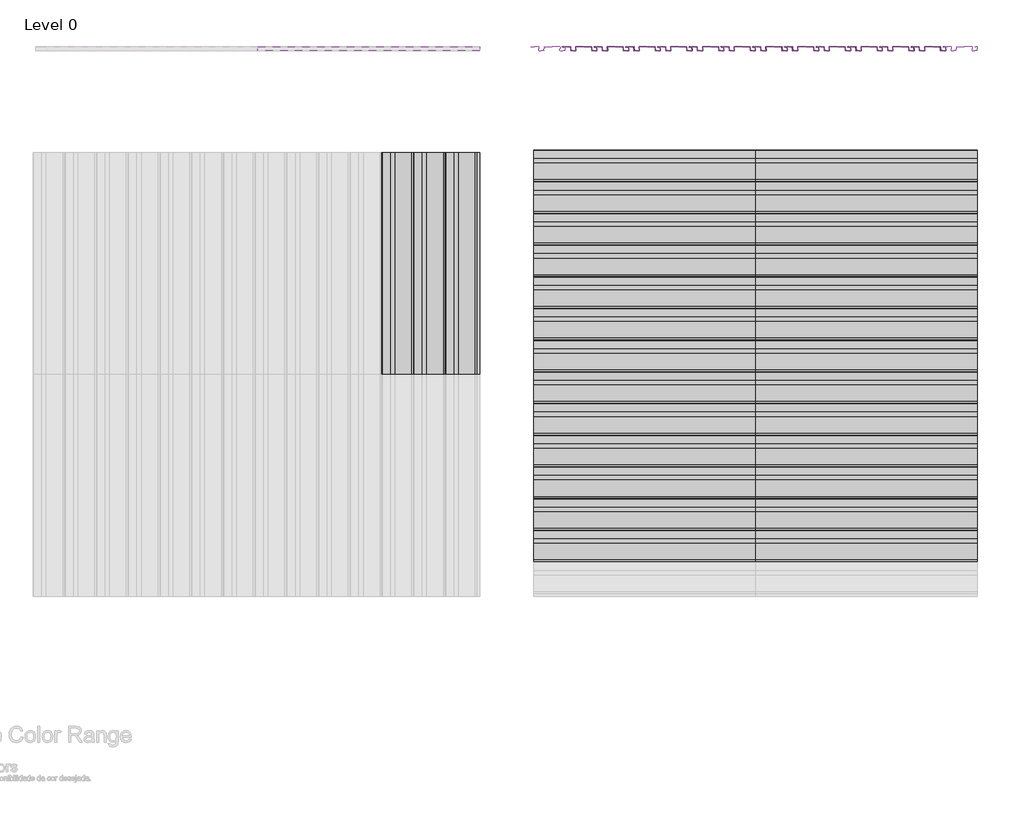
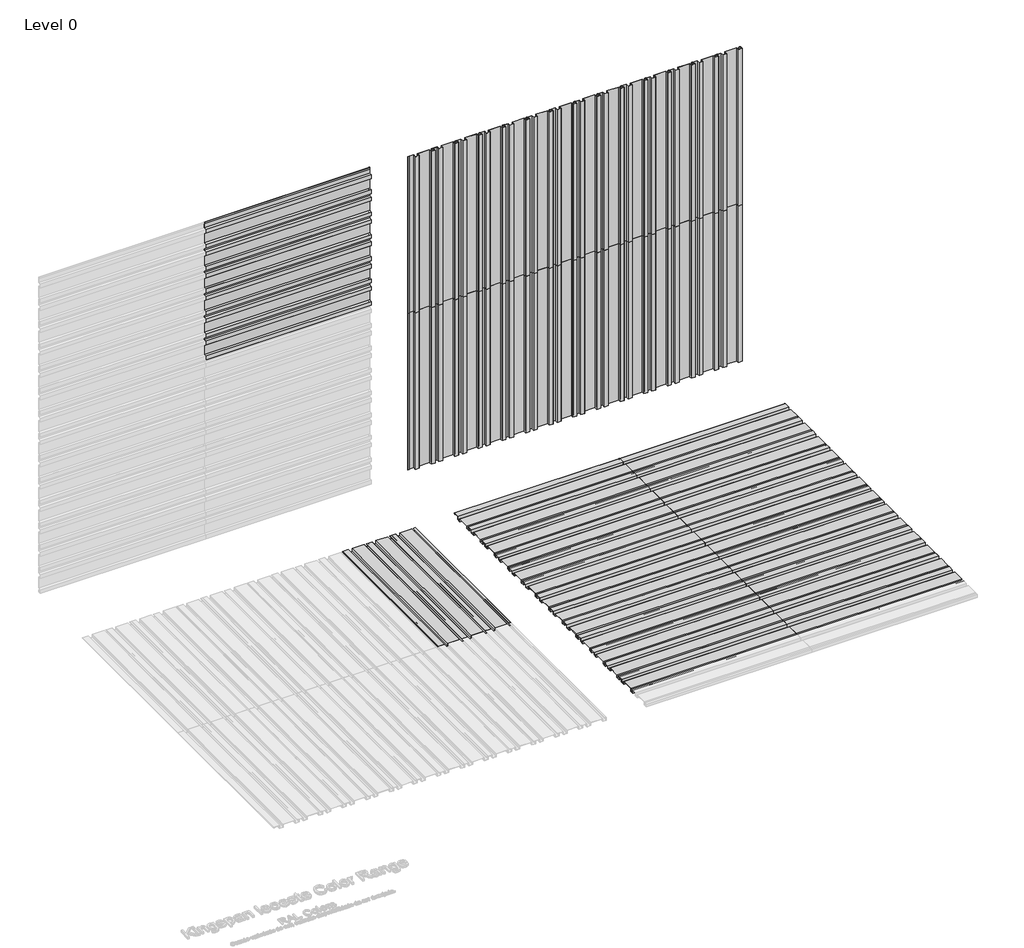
# One storey, part 2 of 2: 63 proxies.
"""IFC4 building model written with IfcOpenShell, lengths in millimetres."""

from ifc_helpers import new_model, si_unit, origin, place, context, project, spatial, transform, mapped, element, save
from components import mx4_0_standard_panel_ns_50b23f36, mx4_0_standard_panel_ns_1fe548eb

model = new_model("IFC4")

# Units and contexts
model_context = context("Model", 3, world=origin())
ifc_project = project(units=[si_unit("LENGTHUNIT", "METRE", prefix="MILLI")], contexts=[model_context])

# Site, building, storey
site = spatial("IfcSite", under=ifc_project)
building = spatial("IfcBuilding", under=site)
storey = spatial("IfcBuildingStorey", under=building, Name="Level 0", Elevation=0.0)

# Proxies
placement = place(None, origin())
mx4_0_standard_panel_ns_shape = mx4_0_standard_panel_ns_50b23f36(model_context)
element("IfcBuildingElementProxy", 1, Name="MX4.0 : Standard Panel_NS", ObjectType="MX4.0 : Standard Panel_NS", at=placement, inside=storey, context=model_context, shape_type="MappedRepresentation", body=[
    mapped(mx4_0_standard_panel_ns_shape, transform((2189.7088665, 5063.0274074, 0.0), x_axis=(0.0, 0.0, 1.0), y_axis=(-1.0, 0.0, 0.0), z_axis=(0.0, -1.0, 0.0))),
])
element("IfcBuildingElementProxy", 2, Name="MX4.0 : Standard Panel_NS", ObjectType="MX4.0 : Standard Panel_NS", at=placement, inside=storey, context=model_context, shape_type="MappedRepresentation", body=[
    mapped(mx4_0_standard_panel_ns_shape, transform((2189.7088665, 5063.0274074, 2100.0), x_axis=(0.0, 0.0, 1.0), y_axis=(-1.0, 0.0, 0.0), z_axis=(0.0, -1.0, 0.0))),
])
element("IfcBuildingElementProxy", 3, Name="MX4.0 : Standard Panel_NS", ObjectType="MX4.0 : Standard Panel_NS", at=placement, inside=storey, context=model_context, shape_type="MappedRepresentation", body=[
    mapped(mx4_0_standard_panel_ns_shape, transform((-1317.7637295, 5063.0274074, 3300.0), x_axis=(1.0, 0.0, 0.0), y_axis=(0.0, 0.0, 1.0), z_axis=(0.0, -1.0, 0.0))),
])
element("IfcBuildingElementProxy", 4, Name="MX4.0 : Standard Panel_NS", ObjectType="MX4.0 : Standard Panel_NS", at=placement, inside=storey, context=model_context, shape_type="MappedRepresentation", body=[
    mapped(mx4_0_standard_panel_ns_shape, transform((4589.7088665, 5063.0274074, 0.0), x_axis=(0.0, 0.0, 1.0), y_axis=(-1.0, 0.0, 0.0), z_axis=(0.0, -1.0, 0.0))),
])
element("IfcBuildingElementProxy", 5, Name="MX4.0 : Standard Panel_NS", ObjectType="MX4.0 : Standard Panel_NS", at=placement, inside=storey, context=model_context, shape_type="MappedRepresentation", body=[
    mapped(mx4_0_standard_panel_ns_shape, transform((4589.7088665, 5063.0274074, 2100.0), x_axis=(0.0, 0.0, 1.0), y_axis=(-1.0, 0.0, 0.0), z_axis=(0.0, -1.0, 0.0))),
])
mx4_0_standard_panel_ns_2_shape = mx4_0_standard_panel_ns_1fe548eb(model_context)
element("IfcBuildingElementProxy", 6, Name="MX4.0 : Standard Panel_NS", ObjectType="MX4.0 : Standard Panel_NS", at=placement, inside=storey, context=model_context, shape_type="MappedRepresentation", body=[
    mapped(mx4_0_standard_panel_ns_2_shape, transform((1289.7088668, 758.3113453, 0.0), x_axis=(1.0, 0.0, 0.0), y_axis=(0.0, 1.0, 0.0), z_axis=(0.0, 0.0, 1.0))),
])
element("IfcBuildingElementProxy", 7, Name="MX4.0 : Standard Panel_NS", ObjectType="MX4.0 : Standard Panel_NS", at=placement, inside=storey, context=model_context, shape_type="MappedRepresentation", body=[
    mapped(mx4_0_standard_panel_ns_2_shape, transform((1289.7088668, 3158.3113453, 0.0), x_axis=(1.0, 0.0, 0.0), y_axis=(0.0, 1.0, 0.0), z_axis=(0.0, 0.0, 1.0))),
])
element("IfcBuildingElementProxy", 8, Name="MX4.0 : Standard Panel_NS", ObjectType="MX4.0 : Standard Panel_NS", at=placement, inside=storey, context=model_context, shape_type="MappedRepresentation", body=[
    mapped(mx4_0_standard_panel_ns_2_shape, transform((3389.7088668, 758.3113453, 0.0), x_axis=(1.0, 0.0, 0.0), y_axis=(0.0, 1.0, 0.0), z_axis=(0.0, 0.0, 1.0))),
])
element("IfcBuildingElementProxy", 9, Name="MX4.0 : Standard Panel_NS", ObjectType="MX4.0 : Standard Panel_NS", at=placement, inside=storey, context=model_context, shape_type="MappedRepresentation", body=[
    mapped(mx4_0_standard_panel_ns_2_shape, transform((3389.7088668, 3158.3113453, 0.0), x_axis=(1.0, 0.0, 0.0), y_axis=(0.0, 1.0, 0.0), z_axis=(0.0, 0.0, 1.0))),
])
element("IfcBuildingElementProxy", 10, Name="MX4.0 : Standard Panel_NS", ObjectType="MX4.0 : Standard Panel_NS", at=placement, inside=storey, context=model_context, shape_type="MappedRepresentation", body=[
    mapped(mx4_0_standard_panel_ns_shape, transform((3089.7088665, 5063.0274074, 0.0), x_axis=(0.0, 0.0, 1.0), y_axis=(-1.0, 0.0, 0.0), z_axis=(0.0, -1.0, 0.0))),
])
element("IfcBuildingElementProxy", 11, Name="MX4.0 : Standard Panel_NS", ObjectType="MX4.0 : Standard Panel_NS", at=placement, inside=storey, context=model_context, shape_type="MappedRepresentation", body=[
    mapped(mx4_0_standard_panel_ns_shape, transform((3089.7088665, 5063.0274074, 2100.0), x_axis=(0.0, 0.0, 1.0), y_axis=(-1.0, 0.0, 0.0), z_axis=(0.0, -1.0, 0.0))),
])
element("IfcBuildingElementProxy", 12, Name="MX4.0 : Standard Panel_NS", ObjectType="MX4.0 : Standard Panel_NS", at=placement, inside=storey, context=model_context, shape_type="MappedRepresentation", body=[
    mapped(mx4_0_standard_panel_ns_shape, transform((-1317.7637295, 5063.0274074, 2400.0), x_axis=(1.0, 0.0, 0.0), y_axis=(0.0, 0.0, 1.0), z_axis=(0.0, -1.0, 0.0))),
])
element("IfcBuildingElementProxy", 13, Name="MX4.0 : Standard Panel_NS", ObjectType="MX4.0 : Standard Panel_NS", at=placement, inside=storey, context=model_context, shape_type="MappedRepresentation", body=[
    mapped(mx4_0_standard_panel_ns_shape, transform((5489.7088666, 5063.0274074, 0.0), x_axis=(0.0, 0.0, 1.0), y_axis=(-1.0, 0.0, 0.0), z_axis=(0.0, -1.0, 0.0))),
])
element("IfcBuildingElementProxy", 14, Name="MX4.0 : Standard Panel_NS", ObjectType="MX4.0 : Standard Panel_NS", at=placement, inside=storey, context=model_context, shape_type="MappedRepresentation", body=[
    mapped(mx4_0_standard_panel_ns_shape, transform((5489.7088666, 5063.0274074, 2100.0), x_axis=(0.0, 0.0, 1.0), y_axis=(-1.0, 0.0, 0.0), z_axis=(0.0, -1.0, 0.0))),
])
element("IfcBuildingElementProxy", 15, Name="MX4.0 : Standard Panel_NS", ObjectType="MX4.0 : Standard Panel_NS", at=placement, inside=storey, context=model_context, shape_type="MappedRepresentation", body=[
    mapped(mx4_0_standard_panel_ns_2_shape, transform((1289.7088668, 2258.3113453, 0.0), x_axis=(1.0, 0.0, 0.0), y_axis=(0.0, 1.0, 0.0), z_axis=(0.0, 0.0, 1.0))),
])
element("IfcBuildingElementProxy", 16, Name="MX4.0 : Standard Panel_NS", ObjectType="MX4.0 : Standard Panel_NS", at=placement, inside=storey, context=model_context, shape_type="MappedRepresentation", body=[
    mapped(mx4_0_standard_panel_ns_2_shape, transform((782.2362705, 1958.3113453, 0.0), x_axis=(0.0, 1.0, 0.0), y_axis=(-1.0, 0.0, 0.0), z_axis=(0.0, 0.0, 1.0))),
])
element("IfcBuildingElementProxy", 17, Name="MX4.0 : Standard Panel_NS", ObjectType="MX4.0 : Standard Panel_NS", at=placement, inside=storey, context=model_context, shape_type="MappedRepresentation", body=[
    mapped(mx4_0_standard_panel_ns_2_shape, transform((3389.7088668, 2258.3113453, 0.0), x_axis=(1.0, 0.0, 0.0), y_axis=(0.0, 1.0, 0.0), z_axis=(0.0, 0.0, 1.0))),
])
element("IfcBuildingElementProxy", 18, Name="MX4.0 : Standard Panel_NS", ObjectType="MX4.0 : Standard Panel_NS", at=placement, inside=storey, context=model_context, shape_type="MappedRepresentation", body=[
    mapped(mx4_0_standard_panel_ns_2_shape, transform((1289.7088668, 1358.3113453, 0.0), x_axis=(1.0, 0.0, 0.0), y_axis=(0.0, 1.0, 0.0), z_axis=(0.0, 0.0, 1.0))),
])
element("IfcBuildingElementProxy", 19, Name="MX4.0 : Standard Panel_NS", ObjectType="MX4.0 : Standard Panel_NS", at=placement, inside=storey, context=model_context, shape_type="MappedRepresentation", body=[
    mapped(mx4_0_standard_panel_ns_2_shape, transform((1289.7088668, 3758.3113453, 0.0), x_axis=(1.0, 0.0, 0.0), y_axis=(0.0, 1.0, 0.0), z_axis=(0.0, 0.0, 1.0))),
])
element("IfcBuildingElementProxy", 20, Name="MX4.0 : Standard Panel_NS", ObjectType="MX4.0 : Standard Panel_NS", at=placement, inside=storey, context=model_context, shape_type="MappedRepresentation", body=[
    mapped(mx4_0_standard_panel_ns_2_shape, transform((3389.7088668, 1358.3113453, 0.0), x_axis=(1.0, 0.0, 0.0), y_axis=(0.0, 1.0, 0.0), z_axis=(0.0, 0.0, 1.0))),
])
element("IfcBuildingElementProxy", 21, Name="MX4.0 : Standard Panel_NS", ObjectType="MX4.0 : Standard Panel_NS", at=placement, inside=storey, context=model_context, shape_type="MappedRepresentation", body=[
    mapped(mx4_0_standard_panel_ns_2_shape, transform((3389.7088668, 3758.3113453, 0.0), x_axis=(1.0, 0.0, 0.0), y_axis=(0.0, 1.0, 0.0), z_axis=(0.0, 0.0, 1.0))),
])
element("IfcBuildingElementProxy", 22, Name="MX4.0 : Standard Panel_NS", ObjectType="MX4.0 : Standard Panel_NS", at=placement, inside=storey, context=model_context, shape_type="MappedRepresentation", body=[
    mapped(mx4_0_standard_panel_ns_shape, transform((1589.7088666, 5063.0274074, 0.0), x_axis=(0.0, 0.0, 1.0), y_axis=(-1.0, 0.0, 0.0), z_axis=(0.0, -1.0, 0.0))),
])
element("IfcBuildingElementProxy", 23, Name="MX4.0 : Standard Panel_NS", ObjectType="MX4.0 : Standard Panel_NS", at=placement, inside=storey, context=model_context, shape_type="MappedRepresentation", body=[
    mapped(mx4_0_standard_panel_ns_shape, transform((1589.7088666, 5063.0274074, 2100.0), x_axis=(0.0, 0.0, 1.0), y_axis=(-1.0, 0.0, 0.0), z_axis=(0.0, -1.0, 0.0))),
])
element("IfcBuildingElementProxy", 24, Name="MX4.0 : Standard Panel_NS", ObjectType="MX4.0 : Standard Panel_NS", at=placement, inside=storey, context=model_context, shape_type="MappedRepresentation", body=[
    mapped(mx4_0_standard_panel_ns_shape, transform((-1317.7637295, 5063.0274074, 3900.0), x_axis=(1.0, 0.0, 0.0), y_axis=(0.0, 0.0, 1.0), z_axis=(0.0, -1.0, 0.0))),
])
element("IfcBuildingElementProxy", 25, Name="MX4.0 : Standard Panel_NS", ObjectType="MX4.0 : Standard Panel_NS", at=placement, inside=storey, context=model_context, shape_type="MappedRepresentation", body=[
    mapped(mx4_0_standard_panel_ns_shape, transform((3989.7088665, 5063.0274074, 0.0), x_axis=(0.0, 0.0, 1.0), y_axis=(-1.0, 0.0, 0.0), z_axis=(0.0, -1.0, 0.0))),
])
element("IfcBuildingElementProxy", 26, Name="MX4.0 : Standard Panel_NS", ObjectType="MX4.0 : Standard Panel_NS", at=placement, inside=storey, context=model_context, shape_type="MappedRepresentation", body=[
    mapped(mx4_0_standard_panel_ns_shape, transform((3989.7088665, 5063.0274074, 2100.0), x_axis=(0.0, 0.0, 1.0), y_axis=(-1.0, 0.0, 0.0), z_axis=(0.0, -1.0, 0.0))),
])
element("IfcBuildingElementProxy", 27, Name="MX4.0 : Standard Panel_NS", ObjectType="MX4.0 : Standard Panel_NS", at=placement, inside=storey, context=model_context, shape_type="MappedRepresentation", body=[
    mapped(mx4_0_standard_panel_ns_shape, transform((2789.7088665, 5063.0274074, 0.0), x_axis=(0.0, 0.0, 1.0), y_axis=(-1.0, 0.0, 0.0), z_axis=(0.0, -1.0, 0.0))),
])
element("IfcBuildingElementProxy", 28, Name="MX4.0 : Standard Panel_NS", ObjectType="MX4.0 : Standard Panel_NS", at=placement, inside=storey, context=model_context, shape_type="MappedRepresentation", body=[
    mapped(mx4_0_standard_panel_ns_shape, transform((2789.7088665, 5063.0274074, 2100.0), x_axis=(0.0, 0.0, 1.0), y_axis=(-1.0, 0.0, 0.0), z_axis=(0.0, -1.0, 0.0))),
])
element("IfcBuildingElementProxy", 29, Name="MX4.0 : Standard Panel_NS", ObjectType="MX4.0 : Standard Panel_NS", at=placement, inside=storey, context=model_context, shape_type="MappedRepresentation", body=[
    mapped(mx4_0_standard_panel_ns_shape, transform((-1317.7637295, 5063.0274074, 2700.0), x_axis=(1.0, 0.0, 0.0), y_axis=(0.0, 0.0, 1.0), z_axis=(0.0, -1.0, 0.0))),
])
element("IfcBuildingElementProxy", 30, Name="MX4.0 : Standard Panel_NS", ObjectType="MX4.0 : Standard Panel_NS", at=placement, inside=storey, context=model_context, shape_type="MappedRepresentation", body=[
    mapped(mx4_0_standard_panel_ns_shape, transform((5189.7088665, 5063.0274074, 0.0), x_axis=(0.0, 0.0, 1.0), y_axis=(-1.0, 0.0, 0.0), z_axis=(0.0, -1.0, 0.0))),
])
element("IfcBuildingElementProxy", 31, Name="MX4.0 : Standard Panel_NS", ObjectType="MX4.0 : Standard Panel_NS", at=placement, inside=storey, context=model_context, shape_type="MappedRepresentation", body=[
    mapped(mx4_0_standard_panel_ns_shape, transform((5189.7088665, 5063.0274074, 2100.0), x_axis=(0.0, 0.0, 1.0), y_axis=(-1.0, 0.0, 0.0), z_axis=(0.0, -1.0, 0.0))),
])
element("IfcBuildingElementProxy", 32, Name="MX4.0 : Standard Panel_NS", ObjectType="MX4.0 : Standard Panel_NS", at=placement, inside=storey, context=model_context, shape_type="MappedRepresentation", body=[
    mapped(mx4_0_standard_panel_ns_shape, transform((2489.7088665, 5063.0274074, 0.0), x_axis=(0.0, 0.0, 1.0), y_axis=(-1.0, 0.0, 0.0), z_axis=(0.0, -1.0, 0.0))),
])
element("IfcBuildingElementProxy", 33, Name="MX4.0 : Standard Panel_NS", ObjectType="MX4.0 : Standard Panel_NS", at=placement, inside=storey, context=model_context, shape_type="MappedRepresentation", body=[
    mapped(mx4_0_standard_panel_ns_shape, transform((2489.7088665, 5063.0274074, 2100.0), x_axis=(0.0, 0.0, 1.0), y_axis=(-1.0, 0.0, 0.0), z_axis=(0.0, -1.0, 0.0))),
])
element("IfcBuildingElementProxy", 34, Name="MX4.0 : Standard Panel_NS", ObjectType="MX4.0 : Standard Panel_NS", at=placement, inside=storey, context=model_context, shape_type="MappedRepresentation", body=[
    mapped(mx4_0_standard_panel_ns_shape, transform((-1317.7637295, 5063.0274074, 3000.0), x_axis=(1.0, 0.0, 0.0), y_axis=(0.0, 0.0, 1.0), z_axis=(0.0, -1.0, 0.0))),
])
element("IfcBuildingElementProxy", 35, Name="MX4.0 : Standard Panel_NS", ObjectType="MX4.0 : Standard Panel_NS", at=placement, inside=storey, context=model_context, shape_type="MappedRepresentation", body=[
    mapped(mx4_0_standard_panel_ns_shape, transform((4889.7088665, 5063.0274074, 0.0), x_axis=(0.0, 0.0, 1.0), y_axis=(-1.0, 0.0, 0.0), z_axis=(0.0, -1.0, 0.0))),
])
element("IfcBuildingElementProxy", 36, Name="MX4.0 : Standard Panel_NS", ObjectType="MX4.0 : Standard Panel_NS", at=placement, inside=storey, context=model_context, shape_type="MappedRepresentation", body=[
    mapped(mx4_0_standard_panel_ns_shape, transform((4889.7088665, 5063.0274074, 2100.0), x_axis=(0.0, 0.0, 1.0), y_axis=(-1.0, 0.0, 0.0), z_axis=(0.0, -1.0, 0.0))),
])
element("IfcBuildingElementProxy", 37, Name="MX4.0 : Standard Panel_NS", ObjectType="MX4.0 : Standard Panel_NS", at=placement, inside=storey, context=model_context, shape_type="MappedRepresentation", body=[
    mapped(mx4_0_standard_panel_ns_shape, transform((1889.7088665, 5063.0274074, 0.0), x_axis=(0.0, 0.0, 1.0), y_axis=(-1.0, 0.0, 0.0), z_axis=(0.0, -1.0, 0.0))),
])
element("IfcBuildingElementProxy", 38, Name="MX4.0 : Standard Panel_NS", ObjectType="MX4.0 : Standard Panel_NS", at=placement, inside=storey, context=model_context, shape_type="MappedRepresentation", body=[
    mapped(mx4_0_standard_panel_ns_shape, transform((1889.7088665, 5063.0274074, 2100.0), x_axis=(0.0, 0.0, 1.0), y_axis=(-1.0, 0.0, 0.0), z_axis=(0.0, -1.0, 0.0))),
])
element("IfcBuildingElementProxy", 39, Name="MX4.0 : Standard Panel_NS", ObjectType="MX4.0 : Standard Panel_NS", at=placement, inside=storey, context=model_context, shape_type="MappedRepresentation", body=[
    mapped(mx4_0_standard_panel_ns_shape, transform((-1317.7637295, 5063.0274074, 3600.0), x_axis=(1.0, 0.0, 0.0), y_axis=(0.0, 0.0, 1.0), z_axis=(0.0, -1.0, 0.0))),
])
element("IfcBuildingElementProxy", 40, Name="MX4.0 : Standard Panel_NS", ObjectType="MX4.0 : Standard Panel_NS", at=placement, inside=storey, context=model_context, shape_type="MappedRepresentation", body=[
    mapped(mx4_0_standard_panel_ns_shape, transform((4289.7088665, 5063.0274074, 0.0), x_axis=(0.0, 0.0, 1.0), y_axis=(-1.0, 0.0, 0.0), z_axis=(0.0, -1.0, 0.0))),
])
element("IfcBuildingElementProxy", 41, Name="MX4.0 : Standard Panel_NS", ObjectType="MX4.0 : Standard Panel_NS", at=placement, inside=storey, context=model_context, shape_type="MappedRepresentation", body=[
    mapped(mx4_0_standard_panel_ns_shape, transform((4289.7088665, 5063.0274074, 2100.0), x_axis=(0.0, 0.0, 1.0), y_axis=(-1.0, 0.0, 0.0), z_axis=(0.0, -1.0, 0.0))),
])
element("IfcBuildingElementProxy", 42, Name="MX4.0 : Standard Panel_NS", ObjectType="MX4.0 : Standard Panel_NS", at=placement, inside=storey, context=model_context, shape_type="MappedRepresentation", body=[
    mapped(mx4_0_standard_panel_ns_shape, transform((3689.7088665, 5063.0274074, 0.0), x_axis=(0.0, 0.0, 1.0), y_axis=(-1.0, 0.0, 0.0), z_axis=(0.0, -1.0, 0.0))),
])
element("IfcBuildingElementProxy", 43, Name="MX4.0 : Standard Panel_NS", ObjectType="MX4.0 : Standard Panel_NS", at=placement, inside=storey, context=model_context, shape_type="MappedRepresentation", body=[
    mapped(mx4_0_standard_panel_ns_shape, transform((3689.7088665, 5063.0274074, 2100.0), x_axis=(0.0, 0.0, 1.0), y_axis=(-1.0, 0.0, 0.0), z_axis=(0.0, -1.0, 0.0))),
])
element("IfcBuildingElementProxy", 44, Name="MX4.0 : Standard Panel_NS", ObjectType="MX4.0 : Standard Panel_NS", at=placement, inside=storey, context=model_context, shape_type="MappedRepresentation", body=[
    mapped(mx4_0_standard_panel_ns_shape, transform((3389.7088665, 5063.0274074, 0.0), x_axis=(0.0, 0.0, 1.0), y_axis=(-1.0, 0.0, 0.0), z_axis=(0.0, -1.0, 0.0))),
])
element("IfcBuildingElementProxy", 45, Name="MX4.0 : Standard Panel_NS", ObjectType="MX4.0 : Standard Panel_NS", at=placement, inside=storey, context=model_context, shape_type="MappedRepresentation", body=[
    mapped(mx4_0_standard_panel_ns_shape, transform((3389.7088665, 5063.0274074, 2100.0), x_axis=(0.0, 0.0, 1.0), y_axis=(-1.0, 0.0, 0.0), z_axis=(0.0, -1.0, 0.0))),
])
element("IfcBuildingElementProxy", 46, Name="MX4.0 : Standard Panel_NS", ObjectType="MX4.0 : Standard Panel_NS", at=placement, inside=storey, context=model_context, shape_type="MappedRepresentation", body=[
    mapped(mx4_0_standard_panel_ns_2_shape, transform((1289.7088668, 158.3113453, 0.0), x_axis=(1.0, 0.0, 0.0), y_axis=(0.0, 1.0, 0.0), z_axis=(0.0, 0.0, 1.0))),
])
element("IfcBuildingElementProxy", 47, Name="MX4.0 : Standard Panel_NS", ObjectType="MX4.0 : Standard Panel_NS", at=placement, inside=storey, context=model_context, shape_type="MappedRepresentation", body=[
    mapped(mx4_0_standard_panel_ns_2_shape, transform((1289.7088668, 2558.3113453, 0.0), x_axis=(1.0, 0.0, 0.0), y_axis=(0.0, 1.0, 0.0), z_axis=(0.0, 0.0, 1.0))),
])
element("IfcBuildingElementProxy", 48, Name="MX4.0 : Standard Panel_NS", ObjectType="MX4.0 : Standard Panel_NS", at=placement, inside=storey, context=model_context, shape_type="MappedRepresentation", body=[
    mapped(mx4_0_standard_panel_ns_2_shape, transform((482.2362703, 1958.3113453, 0.0), x_axis=(0.0, 1.0, 0.0), y_axis=(-1.0, 0.0, 0.0), z_axis=(0.0, 0.0, 1.0))),
])
element("IfcBuildingElementProxy", 49, Name="MX4.0 : Standard Panel_NS", ObjectType="MX4.0 : Standard Panel_NS", at=placement, inside=storey, context=model_context, shape_type="MappedRepresentation", body=[
    mapped(mx4_0_standard_panel_ns_2_shape, transform((3389.7088668, 158.3113453, 0.0), x_axis=(1.0, 0.0, 0.0), y_axis=(0.0, 1.0, 0.0), z_axis=(0.0, 0.0, 1.0))),
])
element("IfcBuildingElementProxy", 50, Name="MX4.0 : Standard Panel_NS", ObjectType="MX4.0 : Standard Panel_NS", at=placement, inside=storey, context=model_context, shape_type="MappedRepresentation", body=[
    mapped(mx4_0_standard_panel_ns_2_shape, transform((3389.7088668, 2558.3113453, 0.0), x_axis=(1.0, 0.0, 0.0), y_axis=(0.0, 1.0, 0.0), z_axis=(0.0, 0.0, 1.0))),
])
element("IfcBuildingElementProxy", 51, Name="MX4.0 : Standard Panel_NS", ObjectType="MX4.0 : Standard Panel_NS", at=placement, inside=storey, context=model_context, shape_type="MappedRepresentation", body=[
    mapped(mx4_0_standard_panel_ns_2_shape, transform((1289.7088668, 458.3113453, 0.0), x_axis=(1.0, 0.0, 0.0), y_axis=(0.0, 1.0, 0.0), z_axis=(0.0, 0.0, 1.0))),
])
element("IfcBuildingElementProxy", 52, Name="MX4.0 : Standard Panel_NS", ObjectType="MX4.0 : Standard Panel_NS", at=placement, inside=storey, context=model_context, shape_type="MappedRepresentation", body=[
    mapped(mx4_0_standard_panel_ns_2_shape, transform((1289.7088668, 2858.3113453, 0.0), x_axis=(1.0, 0.0, 0.0), y_axis=(0.0, 1.0, 0.0), z_axis=(0.0, 0.0, 1.0))),
])
element("IfcBuildingElementProxy", 53, Name="MX4.0 : Standard Panel_NS", ObjectType="MX4.0 : Standard Panel_NS", at=placement, inside=storey, context=model_context, shape_type="MappedRepresentation", body=[
    mapped(mx4_0_standard_panel_ns_2_shape, transform((182.2362703, 1958.3113453, 0.0), x_axis=(0.0, 1.0, 0.0), y_axis=(-1.0, 0.0, 0.0), z_axis=(0.0, 0.0, 1.0))),
])
element("IfcBuildingElementProxy", 54, Name="MX4.0 : Standard Panel_NS", ObjectType="MX4.0 : Standard Panel_NS", at=placement, inside=storey, context=model_context, shape_type="MappedRepresentation", body=[
    mapped(mx4_0_standard_panel_ns_2_shape, transform((3389.7088668, 458.3113453, 0.0), x_axis=(1.0, 0.0, 0.0), y_axis=(0.0, 1.0, 0.0), z_axis=(0.0, 0.0, 1.0))),
])
element("IfcBuildingElementProxy", 55, Name="MX4.0 : Standard Panel_NS", ObjectType="MX4.0 : Standard Panel_NS", at=placement, inside=storey, context=model_context, shape_type="MappedRepresentation", body=[
    mapped(mx4_0_standard_panel_ns_2_shape, transform((3389.7088668, 2858.3113453, 0.0), x_axis=(1.0, 0.0, 0.0), y_axis=(0.0, 1.0, 0.0), z_axis=(0.0, 0.0, 1.0))),
])
element("IfcBuildingElementProxy", 56, Name="MX4.0 : Standard Panel_NS", ObjectType="MX4.0 : Standard Panel_NS", at=placement, inside=storey, context=model_context, shape_type="MappedRepresentation", body=[
    mapped(mx4_0_standard_panel_ns_2_shape, transform((1289.7088668, 1058.3113453, 0.0), x_axis=(1.0, 0.0, 0.0), y_axis=(0.0, 1.0, 0.0), z_axis=(0.0, 0.0, 1.0))),
])
element("IfcBuildingElementProxy", 57, Name="MX4.0 : Standard Panel_NS", ObjectType="MX4.0 : Standard Panel_NS", at=placement, inside=storey, context=model_context, shape_type="MappedRepresentation", body=[
    mapped(mx4_0_standard_panel_ns_2_shape, transform((1289.7088668, 3458.3113453, 0.0), x_axis=(1.0, 0.0, 0.0), y_axis=(0.0, 1.0, 0.0), z_axis=(0.0, 0.0, 1.0))),
])
element("IfcBuildingElementProxy", 58, Name="MX4.0 : Standard Panel_NS", ObjectType="MX4.0 : Standard Panel_NS", at=placement, inside=storey, context=model_context, shape_type="MappedRepresentation", body=[
    mapped(mx4_0_standard_panel_ns_2_shape, transform((3389.7088668, 1058.3113453, 0.0), x_axis=(1.0, 0.0, 0.0), y_axis=(0.0, 1.0, 0.0), z_axis=(0.0, 0.0, 1.0))),
])
element("IfcBuildingElementProxy", 59, Name="MX4.0 : Standard Panel_NS", ObjectType="MX4.0 : Standard Panel_NS", at=placement, inside=storey, context=model_context, shape_type="MappedRepresentation", body=[
    mapped(mx4_0_standard_panel_ns_2_shape, transform((3389.7088668, 3458.3113453, 0.0), x_axis=(1.0, 0.0, 0.0), y_axis=(0.0, 1.0, 0.0), z_axis=(0.0, 0.0, 1.0))),
])
element("IfcBuildingElementProxy", 60, Name="MX4.0 : Standard Panel_NS", ObjectType="MX4.0 : Standard Panel_NS", at=placement, inside=storey, context=model_context, shape_type="MappedRepresentation", body=[
    mapped(mx4_0_standard_panel_ns_2_shape, transform((1289.7088668, 1658.3113453, 0.0), x_axis=(1.0, 0.0, 0.0), y_axis=(0.0, 1.0, 0.0), z_axis=(0.0, 0.0, 1.0))),
])
element("IfcBuildingElementProxy", 61, Name="MX4.0 : Standard Panel_NS", ObjectType="MX4.0 : Standard Panel_NS", at=placement, inside=storey, context=model_context, shape_type="MappedRepresentation", body=[
    mapped(mx4_0_standard_panel_ns_2_shape, transform((3389.7088668, 1658.3113453, 0.0), x_axis=(1.0, 0.0, 0.0), y_axis=(0.0, 1.0, 0.0), z_axis=(0.0, 0.0, 1.0))),
])
element("IfcBuildingElementProxy", 62, Name="MX4.0 : Standard Panel_NS", ObjectType="MX4.0 : Standard Panel_NS", at=placement, inside=storey, context=model_context, shape_type="MappedRepresentation", body=[
    mapped(mx4_0_standard_panel_ns_2_shape, transform((1289.7088668, 1958.3113453, 0.0), x_axis=(1.0, 0.0, 0.0), y_axis=(0.0, 1.0, 0.0), z_axis=(0.0, 0.0, 1.0))),
])
element("IfcBuildingElementProxy", 63, Name="MX4.0 : Standard Panel_NS", ObjectType="MX4.0 : Standard Panel_NS", at=placement, inside=storey, context=model_context, shape_type="MappedRepresentation", body=[
    mapped(mx4_0_standard_panel_ns_2_shape, transform((3389.7088668, 1958.3113453, 0.0), x_axis=(1.0, 0.0, 0.0), y_axis=(0.0, 1.0, 0.0), z_axis=(0.0, 0.0, 1.0))),
])

save(model, "model.ifc")
